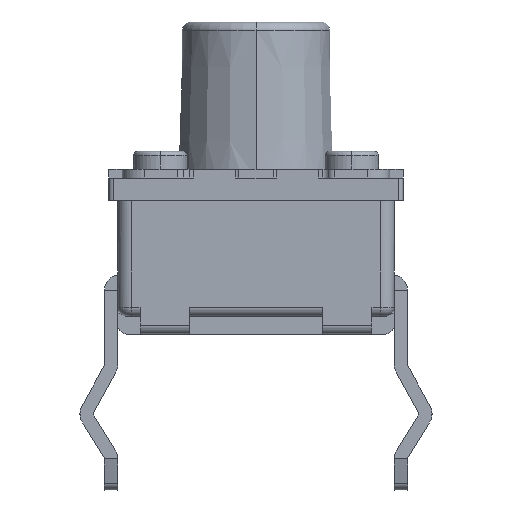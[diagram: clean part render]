
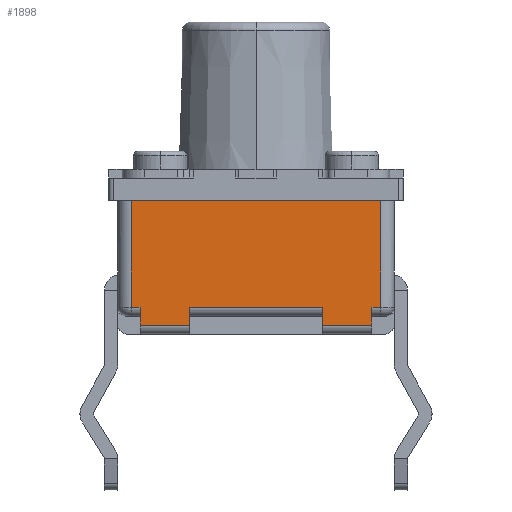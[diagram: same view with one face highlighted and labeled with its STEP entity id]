
A CAD part, front view. The second image highlights one B-rep face of the part: STEP entity #1898.
In plain terms, the highlighted planar face has unit normal (0, -1, 0) as drawn and (0, 0, 1) by its records, which use the part's own axes.
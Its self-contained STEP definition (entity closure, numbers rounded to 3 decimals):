
#239 = VERTEX_POINT ( 'NONE', #4836 ) ;
#244 = EDGE_CURVE ( 'NONE', #239, #250, #4877, .T. ) ;
#250 = VERTEX_POINT ( 'NONE', #4906 ) ;
#1873 = ORIENTED_EDGE ( 'NONE', *, *, #3757, .F. ) ;
#1875 = ORIENTED_EDGE ( 'NONE', *, *, #244, .F. ) ;
#1877 = ORIENTED_EDGE ( 'NONE', *, *, #3816, .T. ) ;
#1879 = ORIENTED_EDGE ( 'NONE', *, *, #1881, .T. ) ;
#1881 = EDGE_CURVE ( 'NONE', #3741, #1882, #9436, .T. ) ;
#1882 = VERTEX_POINT ( 'NONE', #9432 ) ;
#1898 = ADVANCED_FACE ( 'NONE', ( #9465 ), #9514, .F. ) ;
#1900 = EDGE_LOOP ( 'NONE', ( #1902, #1910, #1947, #1953, #1873, #1875, #1877, #1879, #1996, #1922, #1928, #1934 ) ) ;
#1902 = ORIENTED_EDGE ( 'NONE', *, *, #1904, .T. ) ;
#1904 = EDGE_CURVE ( 'NONE', #1905, #1908, #9504, .T. ) ;
#1905 = VERTEX_POINT ( 'NONE', #9500 ) ;
#1908 = VERTEX_POINT ( 'NONE', #9533 ) ;
#1910 = ORIENTED_EDGE ( 'NONE', *, *, #1943, .F. ) ;
#1918 = EDGE_CURVE ( 'NONE', #1882, #1920, #9520, .T. ) ;
#1920 = VERTEX_POINT ( 'NONE', #9516 ) ;
#1922 = ORIENTED_EDGE ( 'NONE', *, *, #1924, .T. ) ;
#1924 = EDGE_CURVE ( 'NONE', #1920, #1926, #9567, .T. ) ;
#1926 = VERTEX_POINT ( 'NONE', #9563 ) ;
#1928 = ORIENTED_EDGE ( 'NONE', *, *, #1929, .F. ) ;
#1929 = EDGE_CURVE ( 'NONE', #1931, #1926, #9562, .T. ) ;
#1931 = VERTEX_POINT ( 'NONE', #9558 ) ;
#1934 = ORIENTED_EDGE ( 'NONE', *, *, #1935, .F. ) ;
#1935 = EDGE_CURVE ( 'NONE', #1905, #1931, #9590, .T. ) ;
#1943 = EDGE_CURVE ( 'NONE', #1945, #1908, #9629, .T. ) ;
#1945 = VERTEX_POINT ( 'NONE', #9625 ) ;
#1947 = ORIENTED_EDGE ( 'NONE', *, *, #1949, .F. ) ;
#1949 = EDGE_CURVE ( 'NONE', #1950, #1945, #9619, .T. ) ;
#1950 = VERTEX_POINT ( 'NONE', #9615 ) ;
#1953 = ORIENTED_EDGE ( 'NONE', *, *, #1955, .F. ) ;
#1955 = EDGE_CURVE ( 'NONE', #3755, #1950, #9651, .T. ) ;
#1996 = ORIENTED_EDGE ( 'NONE', *, *, #1918, .T. ) ;
#3741 = VERTEX_POINT ( 'NONE', #14860 ) ;
#3755 = VERTEX_POINT ( 'NONE', #14883 ) ;
#3757 = EDGE_CURVE ( 'NONE', #250, #3755, #14882, .T. ) ;
#3816 = EDGE_CURVE ( 'NONE', #239, #3741, #15070, .T. ) ;
#4836 = CARTESIAN_POINT ( 'NONE',  ( -2.8, 3.2, 3.1 ) ) ;
#4870 = DIRECTION ( 'NONE',  ( 1., 0., 0. ) ) ;
#4871 = VECTOR ( 'NONE', #4870, 1000. ) ;
#4872 = CARTESIAN_POINT ( 'NONE',  ( 0., 3.2, 3.1 ) ) ;
#4877 = LINE ( 'NONE', #4872, #4871 ) ;
#4906 = CARTESIAN_POINT ( 'NONE',  ( 2.8, 3.2, 3.1 ) ) ;
#9432 = CARTESIAN_POINT ( 'NONE',  ( -2.6, 0.6, 3.1 ) ) ;
#9433 = DIRECTION ( 'NONE',  ( 1., 0., 0. ) ) ;
#9434 = VECTOR ( 'NONE', #9433, 1000. ) ;
#9435 = CARTESIAN_POINT ( 'NONE',  ( 0., 0.6, 3.1 ) ) ;
#9436 = LINE ( 'NONE', #9435, #9434 ) ;
#9465 = FACE_OUTER_BOUND ( 'NONE', #1900, .T. ) ;
#9500 = CARTESIAN_POINT ( 'NONE',  ( 1.5, 0.6, 3.1 ) ) ;
#9501 = DIRECTION ( 'NONE',  ( 0., -1., 0. ) ) ;
#9502 = VECTOR ( 'NONE', #9501, 1000. ) ;
#9503 = CARTESIAN_POINT ( 'NONE',  ( 1.5, 0.4, 3.1 ) ) ;
#9504 = LINE ( 'NONE', #9503, #9502 ) ;
#9510 = DIRECTION ( 'NONE',  ( 1., 0., 0. ) ) ;
#9511 = DIRECTION ( 'NONE',  ( 0., 0., -1. ) ) ;
#9512 = CARTESIAN_POINT ( 'NONE',  ( 0., 3.3, 3.1 ) ) ;
#9513 = AXIS2_PLACEMENT_3D ( 'NONE', #9512, #9511, #9510 ) ;
#9514 = PLANE ( 'NONE',  #9513 ) ;
#9516 = CARTESIAN_POINT ( 'NONE',  ( -2.6, 0.2, 3.1 ) ) ;
#9517 = DIRECTION ( 'NONE',  ( 0., -1., 0. ) ) ;
#9518 = VECTOR ( 'NONE', #9517, 1000. ) ;
#9519 = CARTESIAN_POINT ( 'NONE',  ( -2.6, 0.4, 3.1 ) ) ;
#9520 = LINE ( 'NONE', #9519, #9518 ) ;
#9533 = CARTESIAN_POINT ( 'NONE',  ( 1.5, 0.2, 3.1 ) ) ;
#9558 = CARTESIAN_POINT ( 'NONE',  ( -1.5, 0.6, 3.1 ) ) ;
#9559 = DIRECTION ( 'NONE',  ( 0., -1., 0. ) ) ;
#9560 = VECTOR ( 'NONE', #9559, 1000. ) ;
#9561 = CARTESIAN_POINT ( 'NONE',  ( -1.5, 0.4, 3.1 ) ) ;
#9562 = LINE ( 'NONE', #9561, #9560 ) ;
#9563 = CARTESIAN_POINT ( 'NONE',  ( -1.5, 0.2, 3.1 ) ) ;
#9564 = DIRECTION ( 'NONE',  ( 1., 0., 0. ) ) ;
#9565 = VECTOR ( 'NONE', #9564, 1000. ) ;
#9566 = CARTESIAN_POINT ( 'NONE',  ( 0., 0.2, 3.1 ) ) ;
#9567 = LINE ( 'NONE', #9566, #9565 ) ;
#9587 = DIRECTION ( 'NONE',  ( -1., 0., 0. ) ) ;
#9588 = VECTOR ( 'NONE', #9587, 1000. ) ;
#9589 = CARTESIAN_POINT ( 'NONE',  ( 0., 0.6, 3.1 ) ) ;
#9590 = LINE ( 'NONE', #9589, #9588 ) ;
#9615 = CARTESIAN_POINT ( 'NONE',  ( 2.6, 0.6, 3.1 ) ) ;
#9616 = DIRECTION ( 'NONE',  ( 0., -1., 0. ) ) ;
#9617 = VECTOR ( 'NONE', #9616, 1000. ) ;
#9618 = CARTESIAN_POINT ( 'NONE',  ( 2.6, 0.4, 3.1 ) ) ;
#9619 = LINE ( 'NONE', #9618, #9617 ) ;
#9625 = CARTESIAN_POINT ( 'NONE',  ( 2.6, 0.2, 3.1 ) ) ;
#9626 = DIRECTION ( 'NONE',  ( -1., 0., 0. ) ) ;
#9627 = VECTOR ( 'NONE', #9626, 1000. ) ;
#9628 = CARTESIAN_POINT ( 'NONE',  ( 0., 0.2, 3.1 ) ) ;
#9629 = LINE ( 'NONE', #9628, #9627 ) ;
#9644 = DIRECTION ( 'NONE',  ( -1., 0., 0. ) ) ;
#9645 = VECTOR ( 'NONE', #9644, 1000. ) ;
#9646 = CARTESIAN_POINT ( 'NONE',  ( 0., 0.6, 3.1 ) ) ;
#9651 = LINE ( 'NONE', #9646, #9645 ) ;
#14860 = CARTESIAN_POINT ( 'NONE',  ( -2.8, 0.6, 3.1 ) ) ;
#14879 = DIRECTION ( 'NONE',  ( 0., -1., 0. ) ) ;
#14880 = VECTOR ( 'NONE', #14879, 1000. ) ;
#14881 = CARTESIAN_POINT ( 'NONE',  ( 2.8, 3.3, 3.1 ) ) ;
#14882 = LINE ( 'NONE', #14881, #14880 ) ;
#14883 = CARTESIAN_POINT ( 'NONE',  ( 2.8, 0.6, 3.1 ) ) ;
#15067 = DIRECTION ( 'NONE',  ( 0., -1., 0. ) ) ;
#15068 = VECTOR ( 'NONE', #15067, 1000. ) ;
#15069 = CARTESIAN_POINT ( 'NONE',  ( -2.8, 3.3, 3.1 ) ) ;
#15070 = LINE ( 'NONE', #15069, #15068 ) ;
